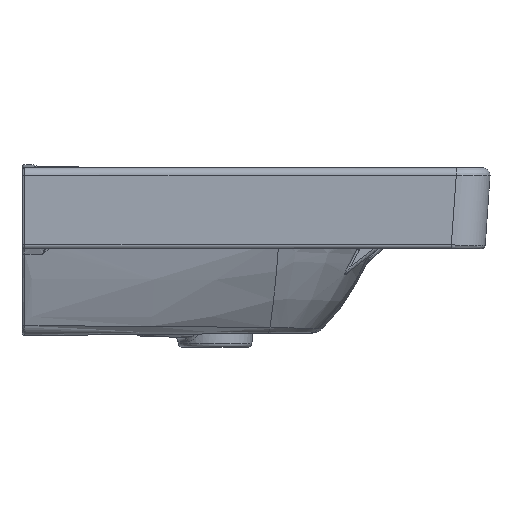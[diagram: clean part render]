
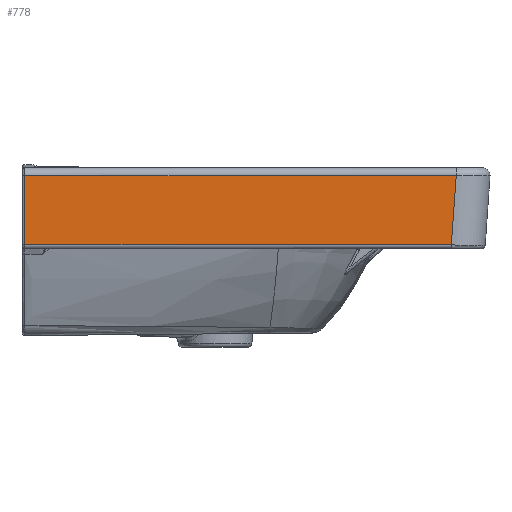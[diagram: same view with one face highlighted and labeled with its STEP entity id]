
A CAD part, left-side view. The second image highlights one B-rep face of the part: STEP entity #778.
In plain terms, the highlighted planar face has unit normal (-1, 0, -0.018).
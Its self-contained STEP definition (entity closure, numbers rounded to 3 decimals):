
#319=PLANE('',#3735);
#487=LINE('',#11903,#569);
#496=LINE('',#14152,#582);
#497=LINE('',#14154,#583);
#569=VECTOR('',#4126,1.);
#582=VECTOR('',#4169,1.);
#583=VECTOR('',#4170,1.);
#778=ADVANCED_FACE('',(#1030),#319,.T.);
#1030=FACE_OUTER_BOUND('',#1256,.T.);
#1256=EDGE_LOOP('',(#2223,#2224,#2225,#2226));
#2223=ORIENTED_EDGE('',*,*,#3165,.T.);
#2224=ORIENTED_EDGE('',*,*,#3212,.F.);
#2225=ORIENTED_EDGE('',*,*,#3213,.F.);
#2226=ORIENTED_EDGE('',*,*,#3211,.T.);
#2671=VERTEX_POINT('',#11864);
#2672=VERTEX_POINT('',#11902);
#2696=VERTEX_POINT('',#14142);
#2697=VERTEX_POINT('',#14153);
#3165=EDGE_CURVE('',#2671,#2672,#487,.T.);
#3211=EDGE_CURVE('',#2696,#2671,#3545,.T.);
#3212=EDGE_CURVE('',#2697,#2672,#496,.T.);
#3213=EDGE_CURVE('',#2696,#2697,#497,.T.);
#3545=B_SPLINE_CURVE_WITH_KNOTS('',3,(#14143,#14144,#14145,#14146,#14147,
#14148,#14149,#14150),.UNSPECIFIED.,.F.,.F.,(4,2,2,4),(0.,0.583,
0.917,1.),.UNSPECIFIED.);
#3735=AXIS2_PLACEMENT_3D('',#14155,#4171,#4172);
#4126=DIRECTION('',(0.,-1.,0.));
#4169=DIRECTION('',(0.017,0.07,-0.997));
#4170=DIRECTION('',(0.,-1.,0.));
#4171=DIRECTION('',(-1.,0.,-0.017));
#4172=DIRECTION('',(-0.017,0.,1.));
#11864=CARTESIAN_POINT('',(-398.742,197.,-80.07));
#11902=CARTESIAN_POINT('',(-398.742,-244.918,-80.07));
#11903=CARTESIAN_POINT('',(-398.742,200.,-80.07));
#14142=CARTESIAN_POINT('',(-399.998,197.,-8.14));
#14143=CARTESIAN_POINT('',(-399.998,197.,-8.14));
#14144=CARTESIAN_POINT('',(-399.754,197.,-22.118));
#14145=CARTESIAN_POINT('',(-399.51,197.,-36.096));
#14146=CARTESIAN_POINT('',(-399.126,197.,-58.073));
#14147=CARTESIAN_POINT('',(-398.986,197.,-66.072));
#14148=CARTESIAN_POINT('',(-398.812,197.,-76.07));
#14149=CARTESIAN_POINT('',(-398.777,197.,-78.07));
#14150=CARTESIAN_POINT('',(-398.742,197.,-80.07));
#14152=CARTESIAN_POINT('',(-400.,-249.957,-7.997));
#14153=CARTESIAN_POINT('',(-399.998,-249.947,-8.14));
#14154=CARTESIAN_POINT('',(-399.998,-250.,-8.14));
#14155=CARTESIAN_POINT('',(-400.,-250.,-8.));
